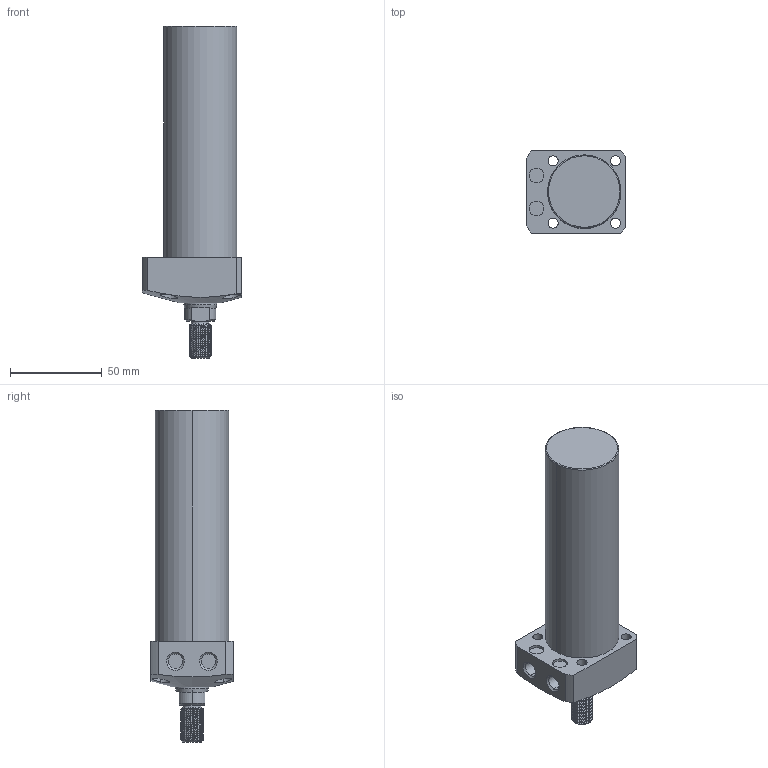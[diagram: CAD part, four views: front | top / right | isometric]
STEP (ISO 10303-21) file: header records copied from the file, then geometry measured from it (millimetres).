
FILE_DESCRIPTION (( 'STEP AP203' ), '1' );
FILE_NAME ('CLL-040CT-100.STEP', '2020-01-08T09:11:27', ( '' ), ( '' ), 'SwSTEP 2.0', 'SolidWorks 2015', '' );
FILE_SCHEMA (( 'CONFIG_CONTROL_DESIGN' ));
Length unit declared in the file: millimetre
Products named in the file (1): CLL-040CT-100
Bounding box: 54 x 45 x 181 mm (x, y, z)
Volume: 212024.4 mm3; surface area: 28672.1 mm2
Topology: 1 solids, 1 shells, 114 faces, 290 edges, 189 vertices
Faces by surface type: cylinder 71, plane 23, cone 16, torus 2, bspline 2
Entity records: 5821 total; most frequent: CARTESIAN_POINT 3172, ORIENTED_EDGE 580, DIRECTION 498, EDGE_CURVE 290, AXIS2_PLACEMENT_3D 198, VERTEX_POINT 189, EDGE_LOOP 133, ADVANCED_FACE 114
